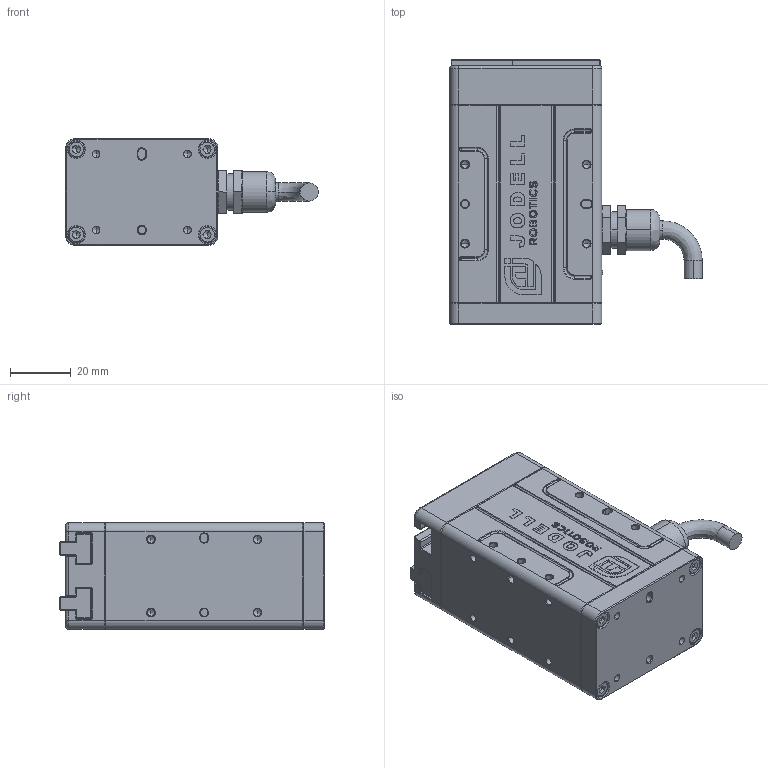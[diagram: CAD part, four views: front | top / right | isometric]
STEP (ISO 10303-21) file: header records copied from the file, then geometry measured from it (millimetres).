
FILE_DESCRIPTION (( 'STEP AP214' ), '1' );
FILE_NAME ('EPG40-050-0L#-C0024-P40-A##.STEP', '2021-12-24T03:34:51', ( 'User' ), ( 'China' ), 'SwSTEP 2.0', 'SolidWorks 2016', '' );
FILE_SCHEMA (( 'AUTOMOTIVE_DESIGN' ));
Length unit declared in the file: millimetre
Products named in the file (2): EPG40-050-0L#-C0024-P40-A##
Bounding box: 83 x 87 x 35 mm (x, y, z)
Volume: 146638.7 mm3; surface area: 34761.5 mm2
Topology: 11 solids, 11 shells, 1211 faces, 2919 edges, 1766 vertices
Faces by surface type: plane 547, bspline 232, cylinder 221, cone 211
Entity records: 39616 total; most frequent: CARTESIAN_POINT 9850, ORIENTED_EDGE 5682, DIRECTION 5038, EDGE_CURVE 2841, VERTEX_POINT 1766, VECTOR 1760, LINE 1760, AXIS2_PLACEMENT_3D 1639
